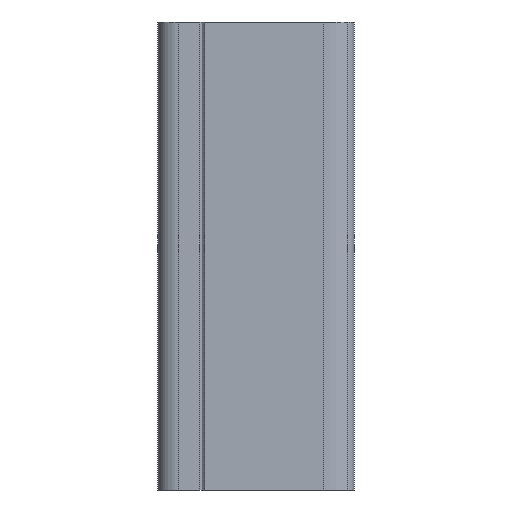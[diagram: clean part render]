
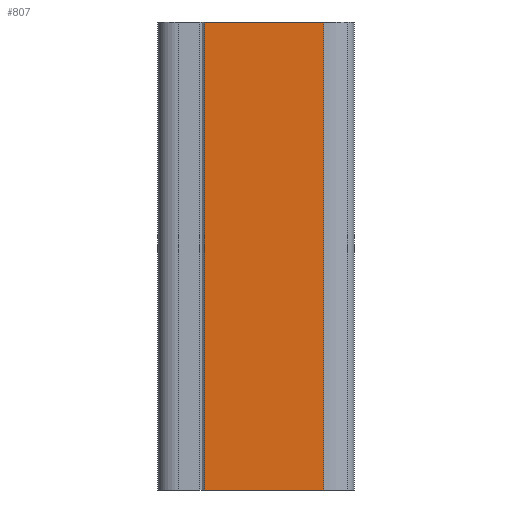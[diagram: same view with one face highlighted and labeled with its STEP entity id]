
A CAD part, left-side view. The second image highlights one B-rep face of the part: STEP entity #807.
In plain terms, the highlighted planar face has unit normal (-1, 0, 0).
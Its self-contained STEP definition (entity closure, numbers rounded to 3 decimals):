
#8 = EDGE_CURVE ( 'NONE', #822, #854, #726, .T. ) ;
#21 = VERTEX_POINT ( 'NONE', #563 ) ;
#90 = DIRECTION ( 'NONE',  ( 0., -1., 0. ) ) ;
#157 = DIRECTION ( 'NONE',  ( 1., 0., 0. ) ) ;
#170 = CARTESIAN_POINT ( 'NONE',  ( -20., -28.46, 0. ) ) ;
#191 = DIRECTION ( 'NONE',  ( 0., 0., -1. ) ) ;
#250 = ORIENTED_EDGE ( 'NONE', *, *, #920, .F. ) ;
#276 = CARTESIAN_POINT ( 'NONE',  ( -20., -3., 100. ) ) ;
#309 = PLANE ( 'NONE',  #354 ) ;
#340 = VECTOR ( 'NONE', #191, 1000. ) ;
#354 = AXIS2_PLACEMENT_3D ( 'NONE', #389, #157, #681 ) ;
#389 = CARTESIAN_POINT ( 'NONE',  ( -20., -3., 100. ) ) ;
#394 = LINE ( 'NONE', #539, #691 ) ;
#398 = LINE ( 'NONE', #913, #340 ) ;
#413 = EDGE_CURVE ( 'NONE', #822, #21, #424, .T. ) ;
#419 = CARTESIAN_POINT ( 'NONE',  ( -20., -3., 100. ) ) ;
#424 = LINE ( 'NONE', #419, #640 ) ;
#448 = ORIENTED_EDGE ( 'NONE', *, *, #413, .T. ) ;
#502 = DIRECTION ( 'NONE',  ( 0., -1., 0. ) ) ;
#510 = VECTOR ( 'NONE', #502, 1000. ) ;
#539 = CARTESIAN_POINT ( 'NONE',  ( -20., -3., 0. ) ) ;
#563 = CARTESIAN_POINT ( 'NONE',  ( -20., -3., 0. ) ) ;
#635 = EDGE_CURVE ( 'NONE', #21, #659, #394, .T. ) ;
#640 = VECTOR ( 'NONE', #725, 1000. ) ;
#659 = VERTEX_POINT ( 'NONE', #170 ) ;
#681 = DIRECTION ( 'NONE',  ( 0., 1., 0. ) ) ;
#691 = VECTOR ( 'NONE', #90, 1000. ) ;
#725 = DIRECTION ( 'NONE',  ( 0., 0., -1. ) ) ;
#726 = LINE ( 'NONE', #276, #510 ) ;
#759 = FACE_OUTER_BOUND ( 'NONE', #778, .T. ) ;
#778 = EDGE_LOOP ( 'NONE', ( #943, #250, #871, #448 ) ) ;
#807 = ADVANCED_FACE ( 'NONE', ( #759 ), #309, .F. ) ;
#822 = VERTEX_POINT ( 'NONE', #953 ) ;
#854 = VERTEX_POINT ( 'NONE', #932 ) ;
#871 = ORIENTED_EDGE ( 'NONE', *, *, #8, .F. ) ;
#913 = CARTESIAN_POINT ( 'NONE',  ( -20., -28.46, 100. ) ) ;
#920 = EDGE_CURVE ( 'NONE', #854, #659, #398, .T. ) ;
#932 = CARTESIAN_POINT ( 'NONE',  ( -20., -28.46, 100. ) ) ;
#943 = ORIENTED_EDGE ( 'NONE', *, *, #635, .T. ) ;
#953 = CARTESIAN_POINT ( 'NONE',  ( -20., -3., 100. ) ) ;
